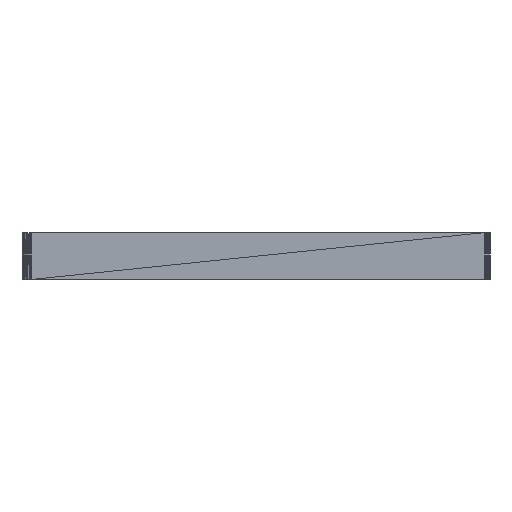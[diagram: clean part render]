
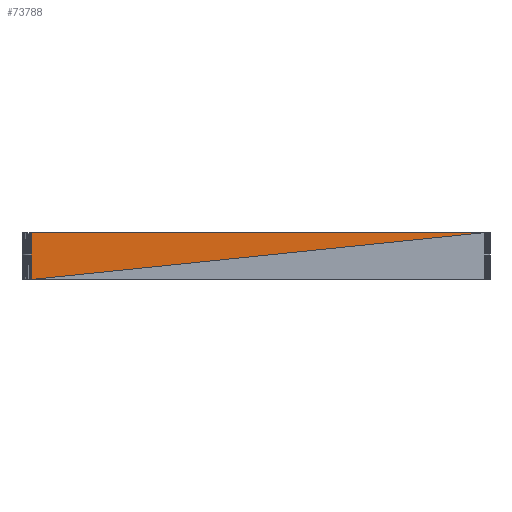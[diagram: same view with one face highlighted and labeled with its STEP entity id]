
A CAD part, front view. The second image highlights one B-rep face of the part: STEP entity #73788.
In plain terms, the highlighted planar face has unit normal (0, -1, 0).
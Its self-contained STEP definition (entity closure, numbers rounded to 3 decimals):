
#22506 = VERTEX_POINT('',#22507);
#22507 = CARTESIAN_POINT('',(78.765,-2.005,7.345));
#38060 = VERTEX_POINT('',#38061);
#38061 = CARTESIAN_POINT('',(-0.758,-2.005,-0.882));
#40510 = VERTEX_POINT('',#40511);
#40511 = CARTESIAN_POINT('',(-0.758,-2.005,7.345));
#40517 = EDGE_CURVE('',#40510,#22506,#40518,.T.);
#40518 = LINE('',#40519,#40520);
#40519 = CARTESIAN_POINT('',(-0.758,-2.005,7.345));
#40520 = VECTOR('',#40521,1.);
#40521 = DIRECTION('',(1.,0.,0.));
#41878 = EDGE_CURVE('',#22506,#38060,#41879,.T.);
#41879 = LINE('',#41880,#41881);
#41880 = CARTESIAN_POINT('',(78.765,-2.005,7.345));
#41881 = VECTOR('',#41882,1.);
#41882 = DIRECTION('',(-0.995,0.,-0.103));
#73788 = ADVANCED_FACE('',(#73789),#73799,.T.);
#73789 = FACE_OUTER_BOUND('',#73790,.T.);
#73790 = EDGE_LOOP('',(#73791,#73792,#73793));
#73791 = ORIENTED_EDGE('',*,*,#41878,.F.);
#73792 = ORIENTED_EDGE('',*,*,#40517,.F.);
#73793 = ORIENTED_EDGE('',*,*,#73794,.T.);
#73794 = EDGE_CURVE('',#40510,#38060,#73795,.T.);
#73795 = LINE('',#73796,#73797);
#73796 = CARTESIAN_POINT('',(-0.758,-2.005,7.345));
#73797 = VECTOR('',#73798,1.);
#73798 = DIRECTION('',(0.,0.,-1.));
#73799 = PLANE('',#73800);
#73800 = AXIS2_PLACEMENT_3D('',#73801,#73802,#73803);
#73801 = CARTESIAN_POINT('',(37.053,-2.005,5.182));
#73802 = DIRECTION('',(0.,-1.,0.));
#73803 = DIRECTION('',(0.,0.,-1.));
